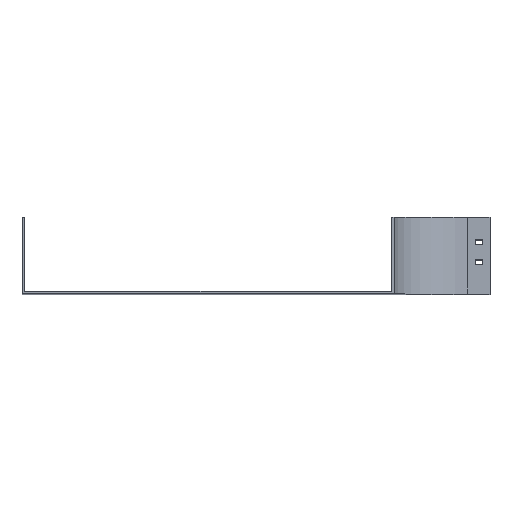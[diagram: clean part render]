
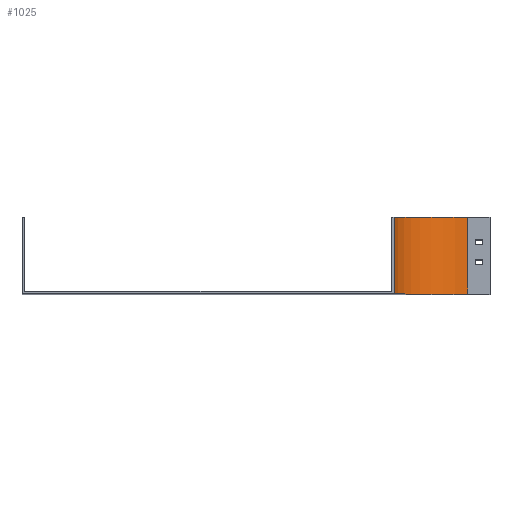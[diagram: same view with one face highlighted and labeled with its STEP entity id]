
A CAD part, top view. The second image highlights one B-rep face of the part: STEP entity #1025.
In plain terms, the highlighted cylindrical face has radius 100 mm (diameter 200 mm), a partial arc.
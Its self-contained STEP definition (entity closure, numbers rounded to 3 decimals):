
#72 = VECTOR ( 'NONE', #2268, 1000. ) ;
#75 = VERTEX_POINT ( 'NONE', #1992 ) ;
#104 = FACE_OUTER_BOUND ( 'NONE', #136, .T. ) ;
#116 = CARTESIAN_POINT ( 'NONE',  ( -100., 0., 0. ) ) ;
#136 = EDGE_LOOP ( 'NONE', ( #232, #1238, #557, #2318 ) ) ;
#201 = CARTESIAN_POINT ( 'NONE',  ( 0., 0., 0. ) ) ;
#211 = DIRECTION ( 'NONE',  ( 0., -1., 0. ) ) ;
#232 = ORIENTED_EDGE ( 'NONE', *, *, #1573, .T. ) ;
#248 = EDGE_CURVE ( 'NONE', #75, #2288, #2311, .T. ) ;
#405 = DIRECTION ( 'NONE',  ( 0., 0., -1. ) ) ;
#557 = ORIENTED_EDGE ( 'NONE', *, *, #2603, .F. ) ;
#627 = LINE ( 'NONE', #2515, #1767 ) ;
#684 = CARTESIAN_POINT ( 'NONE',  ( 0., 0., -100. ) ) ;
#739 = DIRECTION ( 'NONE',  ( 0., -1., 0. ) ) ;
#778 = CARTESIAN_POINT ( 'NONE',  ( 0., 104., 0. ) ) ;
#811 = DIRECTION ( 'NONE',  ( 0., -1., 0. ) ) ;
#958 = CARTESIAN_POINT ( 'NONE',  ( 0., 104., -100. ) ) ;
#961 = AXIS2_PLACEMENT_3D ( 'NONE', #2186, #1120, #1980 ) ;
#1025 = ADVANCED_FACE ( 'NONE', ( #104 ), #1420, .F. ) ;
#1120 = DIRECTION ( 'NONE',  ( 0., -1., 0. ) ) ;
#1209 = DIRECTION ( 'NONE',  ( 0., 0., -1. ) ) ;
#1238 = ORIENTED_EDGE ( 'NONE', *, *, #1721, .F. ) ;
#1312 = AXIS2_PLACEMENT_3D ( 'NONE', #201, #811, #405 ) ;
#1420 = CYLINDRICAL_SURFACE ( 'NONE', #2182, 100. ) ;
#1573 = EDGE_CURVE ( 'NONE', #2288, #2521, #2165, .T. ) ;
#1721 = EDGE_CURVE ( 'NONE', #1909, #2521, #627, .T. ) ;
#1767 = VECTOR ( 'NONE', #211, 1000. ) ;
#1909 = VERTEX_POINT ( 'NONE', #958 ) ;
#1980 = DIRECTION ( 'NONE',  ( 0., 0., -1. ) ) ;
#1992 = CARTESIAN_POINT ( 'NONE',  ( -100., 104., 0. ) ) ;
#2165 = CIRCLE ( 'NONE', #1312, 100. ) ;
#2182 = AXIS2_PLACEMENT_3D ( 'NONE', #778, #739, #1209 ) ;
#2186 = CARTESIAN_POINT ( 'NONE',  ( 0., 104., 0. ) ) ;
#2268 = DIRECTION ( 'NONE',  ( 0., -1., 0. ) ) ;
#2288 = VERTEX_POINT ( 'NONE', #116 ) ;
#2311 = LINE ( 'NONE', #2520, #72 ) ;
#2318 = ORIENTED_EDGE ( 'NONE', *, *, #248, .T. ) ;
#2515 = CARTESIAN_POINT ( 'NONE',  ( 0., 104., -100. ) ) ;
#2520 = CARTESIAN_POINT ( 'NONE',  ( -100., 104., 0. ) ) ;
#2521 = VERTEX_POINT ( 'NONE', #684 ) ;
#2603 = EDGE_CURVE ( 'NONE', #75, #1909, #2677, .T. ) ;
#2677 = CIRCLE ( 'NONE', #961, 100. ) ;
